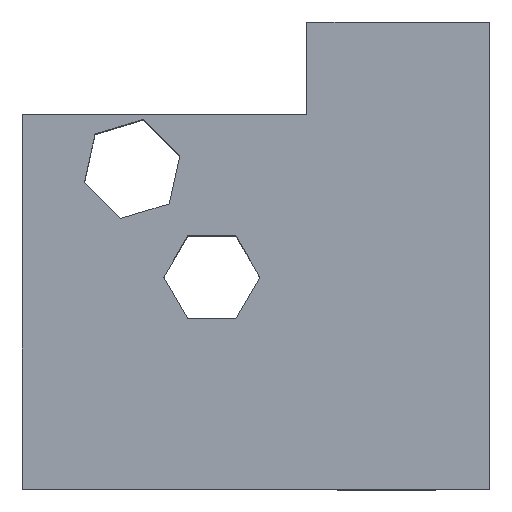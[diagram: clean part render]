
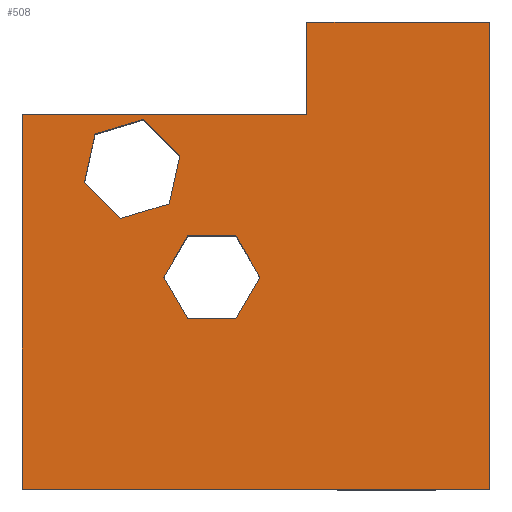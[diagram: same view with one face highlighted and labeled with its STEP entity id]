
A CAD part, top view. The second image highlights one B-rep face of the part: STEP entity #508.
In plain terms, the highlighted planar face has unit normal (0, 0, 1).
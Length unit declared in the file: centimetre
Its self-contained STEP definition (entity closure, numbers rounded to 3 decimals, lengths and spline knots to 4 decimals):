
#16 = VECTOR ( 'NONE', #699, 100. ) ;
#23 = EDGE_CURVE ( 'NONE', #659, #1013, #1402, .T. ) ;
#46 = FACE_BOUND ( 'NONE', #1146, .T. ) ;
#49 = DIRECTION ( 'NONE',  ( -0.499, -0.866, 0. ) ) ;
#50 = DIRECTION ( 'NONE',  ( 0.216, 0.976, 0. ) ) ;
#66 = LINE ( 'NONE', #883, #701 ) ;
#85 = LINE ( 'NONE', #386, #1315 ) ;
#97 = VERTEX_POINT ( 'NONE', #451 ) ;
#109 = ORIENTED_EDGE ( 'NONE', *, *, #23, .F. ) ;
#120 = ORIENTED_EDGE ( 'NONE', *, *, #353, .T. ) ;
#122 = VECTOR ( 'NONE', #50, 100. ) ;
#162 = DIRECTION ( 'NONE',  ( -0.216, -0.976, 0. ) ) ;
#163 = FACE_OUTER_BOUND ( 'NONE', #1080, .T. ) ;
#169 = LINE ( 'NONE', #1125, #1718 ) ;
#190 = CARTESIAN_POINT ( 'NONE',  ( 0., 801.5934, 1000. ) ) ;
#195 = DIRECTION ( 'NONE',  ( 0., 1., 0. ) ) ;
#203 = ORIENTED_EDGE ( 'NONE', *, *, #709, .F. ) ;
#215 = CARTESIAN_POINT ( 'NONE',  ( 508.435, 453.7102, 1000. ) ) ;
#225 = LINE ( 'NONE', #913, #360 ) ;
#230 = ORIENTED_EDGE ( 'NONE', *, *, #858, .T. ) ;
#258 = DIRECTION ( 'NONE',  ( 1., 0., 0. ) ) ;
#273 = EDGE_CURVE ( 'NONE', #1013, #674, #873, .T. ) ;
#274 = CARTESIAN_POINT ( 'NONE',  ( 132.6655, 656.5922, 1000. ) ) ;
#280 = CARTESIAN_POINT ( 'NONE',  ( 353.9875, 542.724, 1000. ) ) ;
#291 = VECTOR ( 'NONE', #1318, 100. ) ;
#298 = DIRECTION ( 'NONE',  ( -0.707, 0.707, 0. ) ) ;
#328 = ORIENTED_EDGE ( 'NONE', *, *, #1423, .F. ) ;
#344 = VECTOR ( 'NONE', #1562, 100. ) ;
#349 = LINE ( 'NONE', #359, #291 ) ;
#353 = EDGE_CURVE ( 'NONE', #1395, #1572, #225, .T. ) ;
#355 = CARTESIAN_POINT ( 'NONE',  ( 353.9875, 542.724, 1000. ) ) ;
#359 = CARTESIAN_POINT ( 'NONE',  ( 314.3202, 610.7344, 1000. ) ) ;
#360 = VECTOR ( 'NONE', #803, 100. ) ;
#362 = LINE ( 'NONE', #1275, #480 ) ;
#386 = CARTESIAN_POINT ( 'NONE',  ( 608.9391, 1000., 1000. ) ) ;
#422 = CARTESIAN_POINT ( 'NONE',  ( 209.7855, 579.4722, 1000. ) ) ;
#428 = CARTESIAN_POINT ( 'NONE',  ( 132.6655, 656.5922, 1000. ) ) ;
#436 = LINE ( 'NONE', #860, #663 ) ;
#442 = DIRECTION ( 'NONE',  ( -1., 0., 0. ) ) ;
#451 = CARTESIAN_POINT ( 'NONE',  ( 608.9391, 801.5934, 1000. ) ) ;
#477 = LINE ( 'NONE', #1145, #1693 ) ;
#480 = VECTOR ( 'NONE', #195, 100. ) ;
#486 = CARTESIAN_POINT ( 'NONE',  ( 155.6378, 760.5317, 1000. ) ) ;
#487 = EDGE_LOOP ( 'NONE', ( #884, #203, #1407, #109, #704, #328 ) ) ;
#493 = LINE ( 'NONE', #810, #726 ) ;
#505 = VERTEX_POINT ( 'NONE', #1661 ) ;
#508 = ADVANCED_FACE ( 'NONE', ( #1270, #46, #163 ), #973, .T. ) ;
#513 = VERTEX_POINT ( 'NONE', #190 ) ;
#538 = VERTEX_POINT ( 'NONE', #1164 ) ;
#539 = CARTESIAN_POINT ( 'NONE',  ( 260.1725, 791.7939, 1000. ) ) ;
#573 = LINE ( 'NONE', #1086, #16 ) ;
#587 = EDGE_CURVE ( 'NONE', #505, #910, #1685, .T. ) ;
#603 = DIRECTION ( 'NONE',  ( 1., 0., 0. ) ) ;
#605 = VECTOR ( 'NONE', #912, 100. ) ;
#627 = ORIENTED_EDGE ( 'NONE', *, *, #1350, .T. ) ;
#659 = VERTEX_POINT ( 'NONE', #355 ) ;
#663 = VECTOR ( 'NONE', #298, 100. ) ;
#667 = VECTOR ( 'NONE', #49, 100. ) ;
#674 = VERTEX_POINT ( 'NONE', #1187 ) ;
#688 = VERTEX_POINT ( 'NONE', #800 ) ;
#698 = VECTOR ( 'NONE', #1676, 100. ) ;
#699 = DIRECTION ( 'NONE',  ( -1., 0., 0. ) ) ;
#701 = VECTOR ( 'NONE', #1028, 100. ) ;
#704 = ORIENTED_EDGE ( 'NONE', *, *, #1488, .F. ) ;
#706 = EDGE_CURVE ( 'NONE', #513, #688, #1055, .T. ) ;
#708 = DIRECTION ( 'NONE',  ( 0.707, -0.707, 0. ) ) ;
#709 = EDGE_CURVE ( 'NONE', #674, #505, #493, .T. ) ;
#721 = VERTEX_POINT ( 'NONE', #1478 ) ;
#726 = VECTOR ( 'NONE', #258, 100. ) ;
#735 = EDGE_CURVE ( 'NONE', #97, #721, #85, .T. ) ;
#745 = ORIENTED_EDGE ( 'NONE', *, *, #811, .T. ) ;
#800 = CARTESIAN_POINT ( 'NONE',  ( 0., 0., 1000. ) ) ;
#803 = DIRECTION ( 'NONE',  ( 0.958, 0.287, 0. ) ) ;
#810 = CARTESIAN_POINT ( 'NONE',  ( 353.9875, 364.3834, 1000. ) ) ;
#811 = EDGE_CURVE ( 'NONE', #1572, #538, #169, .T. ) ;
#821 = EDGE_CURVE ( 'NONE', #97, #513, #573, .T. ) ;
#834 = ORIENTED_EDGE ( 'NONE', *, *, #1469, .T. ) ;
#852 = ORIENTED_EDGE ( 'NONE', *, *, #706, .T. ) ;
#855 = EDGE_CURVE ( 'NONE', #538, #909, #1243, .T. ) ;
#858 = EDGE_CURVE ( 'NONE', #1449, #721, #1516, .T. ) ;
#860 = CARTESIAN_POINT ( 'NONE',  ( 209.7855, 579.4722, 1000. ) ) ;
#861 = VERTEX_POINT ( 'NONE', #422 ) ;
#863 = CARTESIAN_POINT ( 'NONE',  ( 302.6858, 453.7102, 1000. ) ) ;
#873 = LINE ( 'NONE', #1418, #1394 ) ;
#883 = CARTESIAN_POINT ( 'NONE',  ( 0., 0., 1000. ) ) ;
#884 = ORIENTED_EDGE ( 'NONE', *, *, #587, .F. ) ;
#904 = DIRECTION ( 'NONE',  ( 0., 1., 0. ) ) ;
#909 = VERTEX_POINT ( 'NONE', #1234 ) ;
#910 = VERTEX_POINT ( 'NONE', #1651 ) ;
#912 = DIRECTION ( 'NONE',  ( 0., -1., 0. ) ) ;
#913 = CARTESIAN_POINT ( 'NONE',  ( 155.6378, 760.5317, 1000. ) ) ;
#948 = CARTESIAN_POINT ( 'NONE',  ( 0., 0., 1000. ) ) ;
#951 = ORIENTED_EDGE ( 'NONE', *, *, #1033, .T. ) ;
#973 = PLANE ( 'NONE',  #1513 ) ;
#1011 = LINE ( 'NONE', #215, #344 ) ;
#1013 = VERTEX_POINT ( 'NONE', #863 ) ;
#1028 = DIRECTION ( 'NONE',  ( 1., 0., 0. ) ) ;
#1033 = EDGE_CURVE ( 'NONE', #1305, #1449, #362, .T. ) ;
#1055 = LINE ( 'NONE', #1067, #605 ) ;
#1067 = CARTESIAN_POINT ( 'NONE',  ( 0., 1000., 1000. ) ) ;
#1076 = VERTEX_POINT ( 'NONE', #274 ) ;
#1080 = EDGE_LOOP ( 'NONE', ( #1543, #852, #1161, #951, #230, #1090 ) ) ;
#1086 = CARTESIAN_POINT ( 'NONE',  ( 608.9391, 801.5934, 1000. ) ) ;
#1090 = ORIENTED_EDGE ( 'NONE', *, *, #735, .F. ) ;
#1125 = CARTESIAN_POINT ( 'NONE',  ( 260.1725, 791.7939, 1000. ) ) ;
#1145 = CARTESIAN_POINT ( 'NONE',  ( 456.8621, 542.724, 1000. ) ) ;
#1146 = EDGE_LOOP ( 'NONE', ( #627, #120, #745, #1456, #834, #1700 ) ) ;
#1153 = VECTOR ( 'NONE', #162, 100. ) ;
#1161 = ORIENTED_EDGE ( 'NONE', *, *, #1445, .T. ) ;
#1164 = CARTESIAN_POINT ( 'NONE',  ( 337.2925, 714.674, 1000. ) ) ;
#1187 = CARTESIAN_POINT ( 'NONE',  ( 353.9875, 364.3834, 1000. ) ) ;
#1234 = CARTESIAN_POINT ( 'NONE',  ( 314.3202, 610.7344, 1000. ) ) ;
#1241 = VECTOR ( 'NONE', #442, 100. ) ;
#1242 = EDGE_CURVE ( 'NONE', #861, #1076, #436, .T. ) ;
#1243 = LINE ( 'NONE', #1633, #1153 ) ;
#1265 = CARTESIAN_POINT ( 'NONE',  ( 1000., 0., 1000. ) ) ;
#1270 = FACE_BOUND ( 'NONE', #487, .T. ) ;
#1275 = CARTESIAN_POINT ( 'NONE',  ( 1000., 1000., 1000. ) ) ;
#1276 = CARTESIAN_POINT ( 'NONE',  ( 456.8621, 364.3834, 1000. ) ) ;
#1305 = VERTEX_POINT ( 'NONE', #1265 ) ;
#1315 = VECTOR ( 'NONE', #904, 100. ) ;
#1318 = DIRECTION ( 'NONE',  ( -0.958, -0.287, 0. ) ) ;
#1321 = VERTEX_POINT ( 'NONE', #1647 ) ;
#1350 = EDGE_CURVE ( 'NONE', #1076, #1395, #1537, .T. ) ;
#1394 = VECTOR ( 'NONE', #1696, 100. ) ;
#1395 = VERTEX_POINT ( 'NONE', #486 ) ;
#1402 = LINE ( 'NONE', #280, #667 ) ;
#1407 = ORIENTED_EDGE ( 'NONE', *, *, #273, .F. ) ;
#1409 = DIRECTION ( 'NONE',  ( 0., 0., 1. ) ) ;
#1418 = CARTESIAN_POINT ( 'NONE',  ( 302.6858, 453.7102, 1000. ) ) ;
#1423 = EDGE_CURVE ( 'NONE', #910, #1321, #1011, .T. ) ;
#1445 = EDGE_CURVE ( 'NONE', #688, #1305, #66, .T. ) ;
#1449 = VERTEX_POINT ( 'NONE', #1708 ) ;
#1456 = ORIENTED_EDGE ( 'NONE', *, *, #855, .T. ) ;
#1469 = EDGE_CURVE ( 'NONE', #909, #861, #349, .T. ) ;
#1478 = CARTESIAN_POINT ( 'NONE',  ( 608.9391, 1000., 1000. ) ) ;
#1488 = EDGE_CURVE ( 'NONE', #1321, #659, #477, .T. ) ;
#1513 = AXIS2_PLACEMENT_3D ( 'NONE', #948, #1409, #603 ) ;
#1516 = LINE ( 'NONE', #1667, #1241 ) ;
#1537 = LINE ( 'NONE', #428, #122 ) ;
#1543 = ORIENTED_EDGE ( 'NONE', *, *, #821, .T. ) ;
#1562 = DIRECTION ( 'NONE',  ( -0.501, 0.865, 0. ) ) ;
#1572 = VERTEX_POINT ( 'NONE', #539 ) ;
#1633 = CARTESIAN_POINT ( 'NONE',  ( 337.2925, 714.674, 1000. ) ) ;
#1647 = CARTESIAN_POINT ( 'NONE',  ( 456.8621, 542.724, 1000. ) ) ;
#1651 = CARTESIAN_POINT ( 'NONE',  ( 508.435, 453.7102, 1000. ) ) ;
#1661 = CARTESIAN_POINT ( 'NONE',  ( 456.8621, 364.3834, 1000. ) ) ;
#1667 = CARTESIAN_POINT ( 'NONE',  ( 0., 1000., 1000. ) ) ;
#1676 = DIRECTION ( 'NONE',  ( 0.5, 0.866, 0. ) ) ;
#1685 = LINE ( 'NONE', #1276, #698 ) ;
#1687 = DIRECTION ( 'NONE',  ( -1., 0., 0. ) ) ;
#1693 = VECTOR ( 'NONE', #1687, 100. ) ;
#1696 = DIRECTION ( 'NONE',  ( 0.498, -0.867, 0. ) ) ;
#1700 = ORIENTED_EDGE ( 'NONE', *, *, #1242, .T. ) ;
#1708 = CARTESIAN_POINT ( 'NONE',  ( 1000., 1000., 1000. ) ) ;
#1718 = VECTOR ( 'NONE', #708, 100. ) ;
